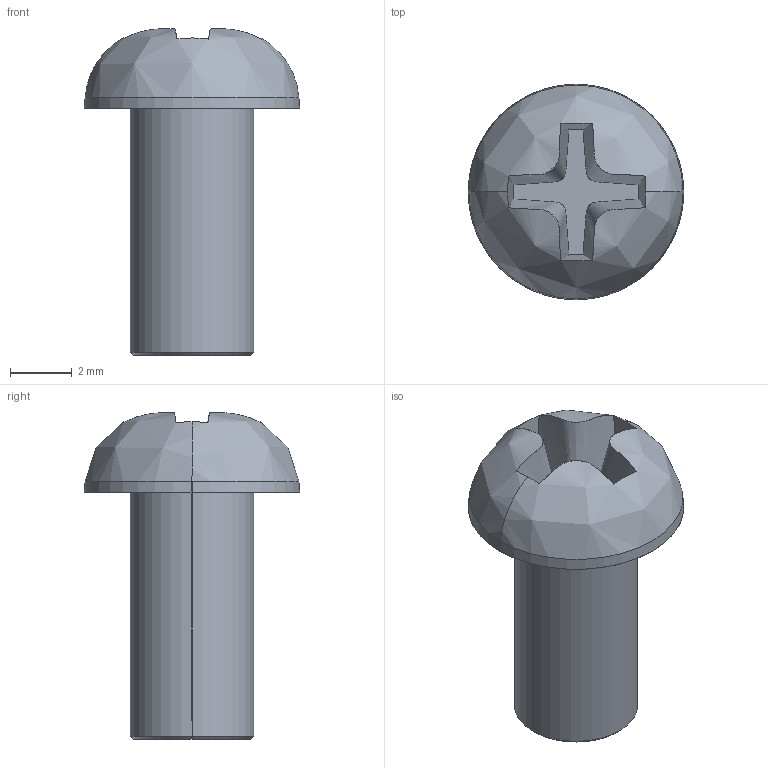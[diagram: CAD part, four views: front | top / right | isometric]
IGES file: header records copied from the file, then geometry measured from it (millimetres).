
Start section: SolidWorks IGES file using analytic representation for surfaces
Bounding box: 7 x 7 x 10.6 mm (x, y, z)
Surface area: 234.6 mm2 (no closed solid volume)
Topology: 0 solids, 0 shells, 21 faces, 302 edges, 302 vertices
Faces by surface type: bspline 15, revolution 6
